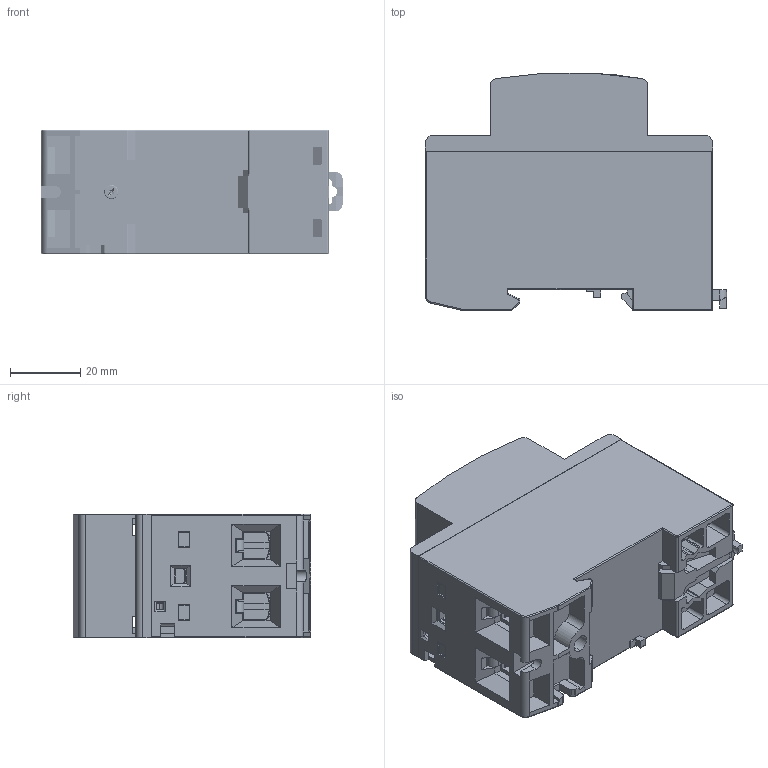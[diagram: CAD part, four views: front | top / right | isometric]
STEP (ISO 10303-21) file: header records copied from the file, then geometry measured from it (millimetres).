
FILE_DESCRIPTION (( 'STEP AP203' ), '1' );
FILE_NAME ('AUC6-63-2模.STEP', '2024-06-25T02:55:24', ( '微软用户' ), ( '微软中国' ), 'SwSTEP 2.0', 'SolidWorks 2023', '' );
FILE_SCHEMA (( 'CONFIG_CONTROL_DESIGN' ));
Length unit declared in the file: millimetre
Products named in the file (14): AAAjxk; AXIAO-JIE-XIAN-BAN-1; AUC6-63-2模; AA封口片; AATOU-MIN-BAO-SHI-1; ALUO_DING-3-1; A20180619AUB1卡扣模具更改; AAjxb_hyb1; m3_hyb1; ATIE-XING-ZHI-JIA-1; AJXB_X_H; A20190827AUC1-63-2底座改AUB1卡扣; ALUO_DING_AUC6-63A-1; 2M2P63圆弧盖
Assembly tree (26 placements, depth 2):
  AUC6-63-2模
    A20190827AUC1-63-2底座改AUB1卡扣
    A20180619AUB1卡扣模具更改
    AAAjxk  x4
    AJXB_X_H  x4
    ALUO_DING_AUC6-63A-1  x4
    AAjxb_hyb1  x2
    m3_hyb1  x2
    ATIE-XING-ZHI-JIA-1
    ALUO_DING-3-1  x2
    AATOU-MIN-BAO-SHI-1
    AA封口片
    AXIAO-JIE-XIAN-BAN-1  x2
    2M2P63圆弧盖
Bounding box: 86 x 67.81 x 35.4 mm (x, y, z)
Volume: 103647.7 mm3; surface area: 67591.3 mm2
Topology: 27 solids, 29 shells, 3510 faces, 10117 edges, 6666 vertices
Faces by surface type: plane 2206, cylinder 1008, bspline 212, cone 66, torus 18
Entity records: 93166 total; most frequent: CARTESIAN_POINT 33282, ORIENTED_EDGE 12910, DIRECTION 10932, EDGE_CURVE 6455, VECTOR 4830, LINE 4830, VERTEX_POINT 4225, AXIS2_PLACEMENT_3D 3051
